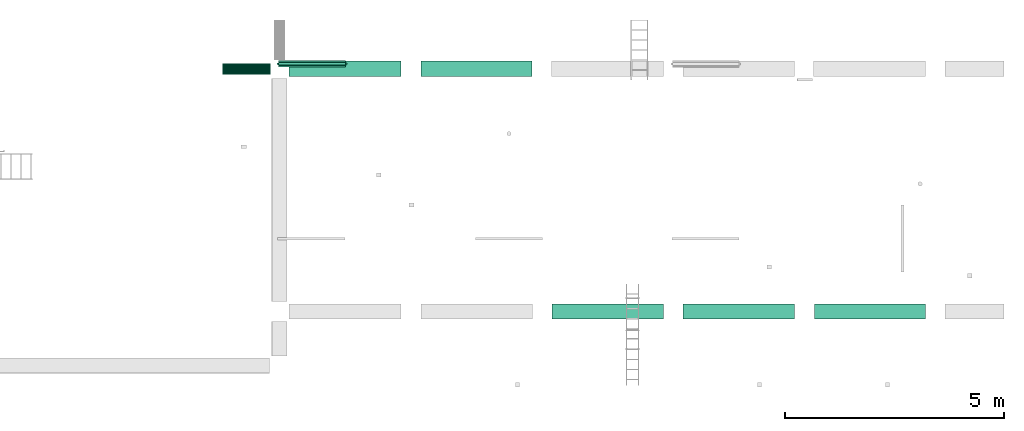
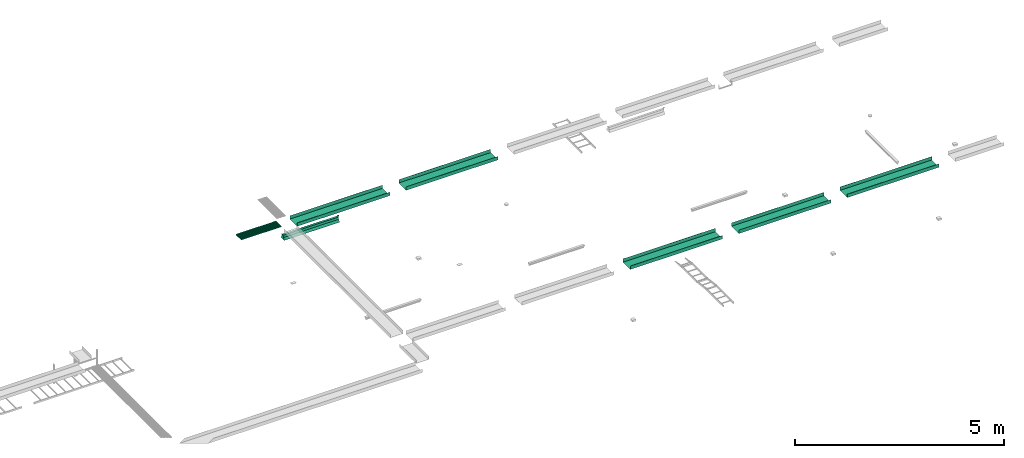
# One storey, part 3 of 14: 15 flow segments, 1 flow terminal.
"""IFC2X3 building model written with IfcOpenShell, lengths in millimetres."""

from ifc_helpers import new_model, entity, si_unit, converted_unit, derived_unit, direction, frame, origin_with_axes, origin_2d_with_axis, place, context, subcontext, project, spatial, hollow_circle, extrude, open_shell, surface_model, source, transform, mapped, type_object, element, save


model = new_model("IFC2X3")

# Units and contexts
model_context = context("Model", 3, precision=0.01, world=frame((0.0, 4.29681676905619e-09, 0.0)), true_north=direction((4.01073788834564e-13, 1.0)))
plan_context = context("Plan", 3, precision=0.01, world=frame((0.0, 4.29681676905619e-09, 0.0)), true_north=direction((4.01073788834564e-13, 1.0)))
body_context = subcontext(model_context, "Body", "Model", "MODEL_VIEW")
ifc_project = project(units=[converted_unit("PLANEANGLEUNIT", "DEGREE", entity("IfcPositiveLengthMeasure", 0.0174532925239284), si_unit("PLANEANGLEUNIT", "RADIAN"), dimensions=[0, 0, 0, 0, 0, 0, 0]), si_unit("AREAUNIT", "SQUARE_METRE"), si_unit("LENGTHUNIT", "METRE", prefix="MILLI"), si_unit("MASSUNIT", "GRAM", prefix="KILO"), si_unit("POWERUNIT", "WATT"), si_unit("PRESSUREUNIT", "PASCAL", prefix="KILO"), si_unit("FORCEUNIT", "NEWTON", prefix="KILO"), si_unit("ELECTRICVOLTAGEUNIT", "VOLT"), si_unit("ELECTRICCURRENTUNIT", "AMPERE"), si_unit("THERMODYNAMICTEMPERATUREUNIT", "DEGREE_CELSIUS"), si_unit("TIMEUNIT", "SECOND"), si_unit("VOLUMEUNIT", "CUBIC_METRE"), derived_unit("LINEARVELOCITYUNIT", [(si_unit("LENGTHUNIT", "METRE"), 1), (si_unit("TIMEUNIT", "SECOND"), -1)]), derived_unit("VOLUMETRICFLOWRATEUNIT", [(si_unit("VOLUMEUNIT", "CUBIC_METRE"), 1), (si_unit("TIMEUNIT", "SECOND"), -1)]), derived_unit("THERMALTRANSMITTANCEUNIT", [(si_unit("POWERUNIT", "WATT"), 1), (si_unit("THERMODYNAMICTEMPERATUREUNIT", "KELVIN"), -1), (si_unit("AREAUNIT", "SQUARE_METRE"), -1)]), derived_unit("SOUNDPRESSUREUNIT", [(si_unit("PRESSUREUNIT", "PASCAL"), 1)])], contexts=[model_context, plan_context])

# Site, building, storey
site_placement = place(None, frame((0.0, -4.29681676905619e-09, 0.0), z_axis=(0.0, 0.0, 1.0), x_axis=(1.0, 0.0, 0.0)))
site = spatial("IfcSite", under=ifc_project, at=site_placement, Name="ENGM", CompositionType="ELEMENT")
building_placement = place(site_placement, frame((0.0, 4.29681676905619e-09, 0.0), z_axis=(0.0, 0.0, 1.0), x_axis=(1.0, 0.0, 0.0)))
building = spatial("IfcBuilding", under=site, at=building_placement, Name="TG", CompositionType="ELEMENT")
storey_placement = place(building_placement, frame((0.0, 0.0, 205200.0), z_axis=(0.0, 0.0, 1.0), x_axis=(1.0, 0.0, 0.0)))
storey = spatial("IfcBuildingStorey", under=building, at=storey_placement, Name="Nivå D + 1,2", CompositionType="ELEMENT", Elevation=205200.0)

# Flow segments
cable_carrier_segment_type_1 = type_object("IfcCableCarrierSegmentType", Name="Conduit", PredefinedType="CONDUITSEGMENT")
shared_shape_1 = source(origin_with_axes(), body_context, "Body", "SweptSolid", [
    extrude(hollow_circle(Radius=12.5, WallThickness=2.0, at=origin_2d_with_axis()), frame((0.0, 0.0, 0.0), z_axis=(1.0, 0.0, 0.0), x_axis=(0.0, 1.0, 0.0)), (0.0, 0.0, 1.0), 1095.0),
])
for number, where, z_axis, x_axis, name in (
    (1, (332294.9875, 466262.5, 4970.0), (0.0, 0.0, 1.0), (-1.0, 0.0, 0.0), "Conduit"),
    (2, (332294.9875, 466287.5, 4970.0), (0.0, 0.0, 1.0), (-1.0, 0.0, 0.0), "Conduit"),
    (3, (332294.9875, 466312.5, 4970.0), (0.0, 0.0, 1.0), (-1.0, 0.0, 0.0), "Conduit"),
    (4, (332294.9875, 466337.5, 4970.0), (0.0, 0.0, 1.0), (-1.0, 0.0, 0.0), "Conduit"),
    (5, (332294.9875, 466362.5, 4970.0), (0.0, 0.0, 1.0), (-1.0, 0.0, 0.0), "Conduit"),
    (6, (332294.9875, 466387.5, 4970.0), (0.0, 0.0, 1.0), (-1.0, 0.0, 0.0), "Conduit"),
    (7, (332294.9875, 466412.5, 4970.0), (0.0, 0.0, 1.0), (-1.0, 0.0, 0.0), "Conduit"),
    (8, (332294.9875, 466437.5, 4970.0), (0.0, 0.0, 1.0), (-1.0, 0.0, 0.0), "Conduit"),
    (9, (332294.9875, 466462.5, 4970.0), (0.0, 0.0, 1.0), (-1.0, 0.0, 0.0), "Conduit"),
    (10, (332294.9875, 466487.5, 4970.0), (0.0, 0.0, 1.0), (-1.0, 0.0, 0.0), "Conduit"),
):
    element("IfcFlowSegment", number, at=place(storey_placement, frame(where, z_axis=z_axis, x_axis=x_axis)), inside=storey, type_object=cable_carrier_segment_type_1, Name=name, context=body_context, shape_type="MappedRepresentation", body=[
        mapped(shared_shape_1, transform((0.0, 0.0, 0.0), scale=1.0)),
    ])
cable_carrier_segment_type_2 = type_object("IfcCableCarrierSegmentType", Name="Kabelbane", PredefinedType="CABLETRAYSEGMENT")
shared_shape_2 = source(origin_with_axes(), body_context, "Body", "SurfaceModel", [
    surface_model("IfcShellBasedSurfaceModel", [(0.0, -175.0, 50.0), (0.0, -172.46, -47.46), (0.0, -175.0, -50.0), (0.0, 175.0, -50.0), (0.0, -172.46, 50.0), (0.0, 175.0, 50.0), (0.0, 172.46, -47.46), (0.0, 172.46, 50.0), (2560.02513, -175.0, -50.0), (2560.02513, -172.46, -47.46), (2560.02513, -175.0, 50.0), (2560.02513, 175.0, -50.0), (2560.02513, -172.46, 50.0), (2560.02513, 172.46, -47.46), (2560.02513, 175.0, 50.0), (2560.02513, 172.46, 50.0)], [open_shell([[[0, 1, 2]], [[3, 2, 1]], [[1, 0, 4]], [[5, 3, 6]], [[1, 6, 3]], [[6, 7, 5]], [[8, 9, 10]], [[9, 8, 11]], [[12, 10, 9]], [[13, 11, 14]], [[11, 13, 9]], [[14, 15, 13]], [[2, 8, 10]], [[10, 0, 2]], [[0, 10, 12]], [[12, 4, 0]], [[4, 12, 9]], [[9, 1, 4]], [[1, 9, 13]], [[13, 6, 1]], [[6, 13, 15]], [[15, 7, 6]], [[7, 15, 14]], [[14, 5, 7]], [[5, 14, 11]], [[11, 3, 5]], [[3, 11, 8]], [[8, 2, 3]]])]),
])
flow_segment_placement = place(storey_placement, frame((335280.0125, 466385.4934, 4900.0), z_axis=(0.0, 0.0, 1.0), x_axis=(-1.0, 0.0, 0.0)))
element("IfcFlowSegment", 11, at=flow_segment_placement, inside=storey, type_object=cable_carrier_segment_type_2, Name="Kabelbane", context=body_context, shape_type="MappedRepresentation", body=[
    mapped(shared_shape_2, transform((0.0, 0.0, 0.0), scale=1.0)),
])
shared_shape_3 = source(origin_with_axes(), body_context, "Body", "SurfaceModel", [
    surface_model("IfcShellBasedSurfaceModel", [(0.0, -175.0, 50.0), (0.0, -172.46, -47.46), (0.0, -175.0, -50.0), (0.0, 175.0, -50.0), (0.0, -172.46, 50.0), (0.0, 175.0, 50.0), (0.0, 172.46, -47.46), (0.0, 172.46, 50.0), (2539.9749, -175.0, -50.0), (2539.9749, -172.46, -47.46), (2539.9749, -175.0, 50.0), (2539.9749, 175.0, -50.0), (2539.9749, -172.46, 50.0), (2539.9749, 172.46, -47.46), (2539.9749, 175.0, 50.0), (2539.9749, 172.46, 50.0)], [open_shell([[[0, 1, 2]], [[3, 2, 1]], [[1, 0, 4]], [[5, 3, 6]], [[1, 6, 3]], [[6, 7, 5]], [[8, 9, 10]], [[9, 8, 11]], [[12, 10, 9]], [[13, 11, 14]], [[11, 13, 9]], [[14, 15, 13]], [[2, 8, 10]], [[10, 0, 2]], [[0, 10, 12]], [[12, 4, 0]], [[4, 12, 9]], [[9, 1, 4]], [[1, 9, 13]], [[13, 6, 1]], [[6, 13, 15]], [[15, 7, 6]], [[7, 15, 14]], [[14, 5, 7]], [[5, 14, 11]], [[11, 3, 5]], [[3, 11, 8]], [[8, 2, 3]]])]),
])
for number, where, z_axis, x_axis in (
    (12, (338269.9875, 466385.4934, 4900.0), (0.0, 0.0, 1.0), (-1.0, 0.0, 0.0)),
    (13, (347269.9875, 460835.9875, 4900.0), (0.0, 0.0, 1.0), (-1.0, 0.0, 0.0)),
):
    element("IfcFlowSegment", number, at=place(storey_placement, frame(where, z_axis=z_axis, x_axis=x_axis)), inside=storey, type_object=cable_carrier_segment_type_2, Name="Kabelbane", context=body_context, shape_type="MappedRepresentation", body=[
        mapped(shared_shape_3, transform((0.0, 0.0, 0.0), scale=1.0)),
    ])
shared_shape_4 = source(origin_with_axes(), body_context, "Body", "SurfaceModel", [
    surface_model("IfcShellBasedSurfaceModel", [(0.0, -175.0, 50.0), (0.0, -172.46, -47.46), (0.0, -175.0, -50.0), (0.0, 175.0, -50.0), (0.0, -172.46, 50.0), (0.0, 175.0, 50.0), (0.0, 172.46, -47.46), (0.0, 172.46, 50.0), (2549.99987, -175.0, -50.0), (2549.99987, -172.46, -47.46), (2549.99987, -175.0, 50.0), (2549.99987, 175.0, -50.0), (2549.99987, -172.46, 50.0), (2549.99987, 172.46, -47.46), (2549.99987, 175.0, 50.0), (2549.99987, 172.46, 50.0)], [open_shell([[[0, 1, 2]], [[3, 2, 1]], [[1, 0, 4]], [[5, 3, 6]], [[1, 6, 3]], [[6, 7, 5]], [[8, 9, 10]], [[9, 8, 11]], [[12, 10, 9]], [[13, 11, 14]], [[11, 13, 9]], [[14, 15, 13]], [[2, 8, 10]], [[10, 0, 2]], [[0, 10, 12]], [[12, 4, 0]], [[4, 12, 9]], [[9, 1, 4]], [[1, 9, 13]], [[13, 6, 1]], [[6, 13, 15]], [[15, 7, 6]], [[7, 15, 14]], [[14, 5, 7]], [[5, 14, 11]], [[11, 3, 5]], [[3, 11, 8]], [[8, 2, 3]]])]),
])
for number, where, z_axis, x_axis in (
    (14, (341280.0125, 460835.9875, 4900.0), (0.0, 0.0, 1.0), (-1.0, 0.0, 0.0)),
    (15, (344280.0125, 460835.9875, 4900.0), (0.0, 0.0, 1.0), (-1.0, 0.0, 0.0)),
):
    element("IfcFlowSegment", number, at=place(storey_placement, frame(where, z_axis=z_axis, x_axis=x_axis)), inside=storey, type_object=cable_carrier_segment_type_2, Name="Kabelbane", context=body_context, shape_type="MappedRepresentation", body=[
        mapped(shared_shape_4, transform((0.0, 0.0, 0.0), scale=1.0)),
    ])

# Flow terminal
light_fixture_type = type_object("IfcLightFixtureType", Name="IB1152", PredefinedType="NOTDEFINED")
shared_shape_5 = source(origin_with_axes(), body_context, "Body", "SurfaceModel", [
    surface_model("IfcShellBasedSurfaceModel", [(0.0, 29.80135, -25.0164), (0.0, 29.99865, -24.9836), (0.1, 39.99864, -85.1336), (0.1, 39.80135, -85.1664), (0.0, -29.99865, -24.9836), (0.0, -29.80135, -25.0164), (0.1, -39.80135, -85.1664), (0.1, -39.99864, -85.1336), (-2e-05, 30.0, -27.0), (-2e-05, 30.0, -27.2), (-2e-05, -30.0, -27.2), (-2e-05, -30.0, -27.0), (-0.1, 39.80135, -85.1664), (-0.1, 39.99864, -85.1336), (-0.1, -39.99864, -85.1336), (-0.1, -39.80135, -85.1664), (2e-05, 30.0, -27.2), (2e-05, 30.0, -27.0), (2e-05, -30.0, -27.0), (2e-05, -30.0, -27.2), (765.00003, 25.0, -0.1), (795.00002, 17.0, -0.1), (795.00002, -17.0, -0.1), (765.00003, -25.0, -0.1), (795.00002, -17.0, 0.1), (795.00002, 17.0, 0.1), (765.00003, 25.0, 0.1), (765.00003, -25.0, 0.1), (765.10003, 30.0, -25.0), (765.10003, 25.0, 0.0), (765.10003, -25.0, 0.0), (765.10003, -30.0, -25.0), (764.89997, -25.0, 0.0), (764.89997, 25.0, 0.0), (764.89997, 30.0, -25.0), (764.89997, -30.0, -25.0), (765.10003, 39.80135, -85.1664), (765.00003, 29.80135, -25.0164), (765.00003, 29.99865, -24.9836), (765.10003, 39.99864, -85.1336), (765.10003, -39.99864, -85.1336), (765.00003, -29.99865, -24.9836), (765.00003, -29.80135, -25.0164), (765.10003, -39.80135, -85.1664), (764.89997, -30.0, -27.0), (764.89997, 30.0, -27.0), (764.89997, -30.0, -27.2), (764.89997, 30.0, -27.2), (765.20002, 40.0, -86.14984), (765.10003, 30.0, -24.99984), (765.10003, -30.0, -24.99984), (765.20002, -40.0, -86.14984), (764.89997, -30.0, -25.00016), (764.89997, 30.0, -25.00016), (765.00003, 40.0, -86.15016), (765.00003, -40.0, -86.15016), (-765.00003, 25.0, 0.1), (-795.00002, 17.0, 0.1), (-795.00002, -17.0, 0.1), (-765.00003, -25.0, 0.1), (-795.00002, -17.0, -0.1), (-795.00002, 17.0, -0.1), (-765.00003, 25.0, -0.1), (-765.00003, -25.0, -0.1), (-764.89997, 30.0, -25.0), (-764.89997, 25.0, 0.0), (-764.89997, -25.0, 0.0), (-764.89997, -30.0, -25.0), (-765.10003, -25.0, 0.0), (-765.10003, 25.0, 0.0), (-765.10003, 30.0, -25.0), (-765.10003, -30.0, -25.0), (-765.10003, 39.99864, -85.1336), (-765.00003, 29.99865, -24.9836), (-765.00003, 29.80135, -25.0164), (-765.10003, 39.80135, -85.1664), (-765.10003, -39.80135, -85.1664), (-765.00003, -29.80135, -25.0164), (-765.00003, -29.99865, -24.9836), (-765.10003, -39.99864, -85.1336), (-764.89997, -30.0, -27.2), (-764.89997, 30.0, -27.2), (-764.89997, -30.0, -27.0), (-764.89997, 30.0, -27.0), (-765.00003, 40.0, -86.15016), (-764.89997, 30.0, -25.00016), (-764.89997, -30.0, -25.00016), (-765.00003, -40.0, -86.15016), (-765.10003, -30.0, -24.99984), (-765.10003, 30.0, -24.99984), (-765.20002, 40.0, -86.14984), (-765.20002, -40.0, -86.14984), (765.00003, -75.5, -150.0), (765.00003, -74.7, -150.0), (765.00003, -72.9274, -130.45916), (765.00003, -72.15466, -130.66622), (765.00003, -64.6921, -112.65), (765.00003, -65.38492, -112.25), (765.00003, -53.38656, -96.61343), (765.00003, -52.82088, -97.17912), (765.00003, -37.75, -84.61508), (765.00003, -37.35, -85.3079), (765.00003, -19.33378, -77.84534), (765.00003, -19.54084, -77.0726), (765.00003, 0.0, -74.5), (765.00003, 0.0, -75.3), (765.00003, 64.6921, -112.65), (765.00003, 72.15466, -130.66622), (765.00003, 65.38492, -112.25), (765.00003, 72.9274, -130.45916), (765.00003, 53.38656, -96.61343), (765.00003, 74.7, -150.0), (765.00003, 75.5, -150.0), (765.00003, 19.33378, -77.84534), (765.00003, 19.54084, -77.0726), (765.00003, 37.35, -85.3079), (765.00003, 52.82088, -97.17912), (765.00003, 37.75, -84.61508), (-765.00003, 75.5, -150.0), (-765.00003, 74.7, -150.0), (-765.00003, 72.9274, -130.45916), (-765.00003, 72.15466, -130.66622), (-765.00003, 64.6921, -112.65), (-765.00003, 65.38492, -112.25), (-765.00003, 53.38656, -96.61343), (-765.00003, 52.82088, -97.17912), (-765.00003, 37.75, -84.61508), (-765.00003, 37.35, -85.3079), (-765.00003, 19.33378, -77.84534), (-765.00003, 19.54084, -77.0726), (-765.00003, 0.0, -74.5), (-765.00003, 0.0, -75.3), (-765.00003, -64.6921, -112.65), (-765.00003, -72.15466, -130.66622), (-765.00003, -65.38492, -112.25), (-765.00003, -72.9274, -130.45916), (-765.00003, -53.38656, -96.61343), (-765.00003, -74.7, -150.0), (-765.00003, -75.5, -150.0), (-765.00003, -19.33378, -77.84534), (-765.00003, -19.54084, -77.0726), (-765.00003, -37.35, -85.3079), (-765.00003, -52.82088, -97.17912), (-765.00003, -37.75, -84.61508), (765.10003, -75.5, -150.0), (765.10003, 0.0, -150.0), (765.10003, -72.9274, -130.45916), (765.10003, -65.38492, -112.25), (765.10003, -53.38656, -96.61343), (765.10003, -37.75, -84.61508), (765.10003, -19.54084, -77.0726), (765.10003, 0.0, -74.5), (765.10003, 72.9274, -130.45916), (765.10003, 65.38492, -112.25), (765.10003, 53.38656, -96.61343), (765.10003, 19.54084, -77.0726), (765.10003, 37.75, -84.61508), (765.10003, 75.5, -150.0), (764.89997, 75.5, -150.0), (764.89997, 0.0, -150.0), (764.89997, 72.9274, -130.45916), (764.89997, 65.38492, -112.25), (764.89997, 53.38656, -96.61343), (764.89997, 37.75, -84.61508), (764.89997, 19.54084, -77.0726), (764.89997, 0.0, -74.5), (764.89997, -72.9274, -130.45916), (764.89997, -65.38492, -112.25), (764.89997, -53.38656, -96.61343), (764.89997, -19.54084, -77.0726), (764.89997, -37.75, -84.61508), (764.89997, -75.5, -150.0), (-764.89997, -75.5, -150.0), (-764.89997, 0.0, -150.0), (-764.89997, -72.9274, -130.45916), (-764.89997, -65.38492, -112.25), (-764.89997, -53.38656, -96.61343), (-764.89997, -37.75, -84.61508), (-764.89997, -19.54084, -77.0726), (-764.89997, 0.0, -74.5), (-764.89997, 72.9274, -130.45916), (-764.89997, 65.38492, -112.25), (-764.89997, 53.38656, -96.61343), (-764.89997, 19.54084, -77.0726), (-764.89997, 37.75, -84.61508), (-764.89997, 75.5, -150.0), (-765.10003, 75.5, -150.0), (-765.10003, 0.0, -150.0), (-765.10003, 72.9274, -130.45916), (-765.10003, 65.38492, -112.25), (-765.10003, 53.38656, -96.61343), (-765.10003, 37.75, -84.61508), (-765.10003, 19.54084, -77.0726), (-765.10003, 0.0, -74.5), (-765.10003, -72.9274, -130.45916), (-765.10003, -65.38492, -112.25), (-765.10003, -53.38656, -96.61343), (-765.10003, -19.54084, -77.0726), (-765.10003, -37.75, -84.61508), (-765.10003, -75.5, -150.0)], [open_shell([[[0, 1, 2]], [[2, 3, 0]], [[4, 5, 6]], [[6, 7, 4]], [[8, 9, 10]], [[10, 11, 8]], [[1, 0, 12]], [[12, 13, 1]], [[5, 4, 14]], [[14, 15, 5]], [[16, 17, 18]], [[18, 19, 16]], [[20, 21, 22]], [[22, 23, 20]], [[24, 25, 26]], [[26, 27, 24]], [[23, 27, 26]], [[26, 20, 23]], [[20, 26, 25]], [[25, 21, 20]], [[21, 25, 24]], [[24, 22, 21]], [[22, 24, 27]], [[27, 23, 22]], [[28, 29, 30]], [[30, 31, 28]], [[32, 33, 34]], [[34, 35, 32]], [[31, 35, 34]], [[34, 28, 31]], [[28, 34, 33]], [[33, 29, 28]], [[29, 33, 32]], [[32, 30, 29]], [[30, 32, 35]], [[35, 31, 30]], [[36, 37, 0]], [[0, 3, 36]], [[1, 38, 39]], [[39, 2, 1]], [[3, 2, 39]], [[39, 36, 3]], [[36, 39, 38]], [[38, 37, 36]], [[37, 38, 1]], [[1, 0, 37]], [[40, 41, 4]], [[4, 7, 40]], [[5, 42, 43]], [[43, 6, 5]], [[7, 6, 43]], [[43, 40, 7]], [[40, 43, 42]], [[42, 41, 40]], [[41, 42, 5]], [[5, 4, 41]], [[8, 11, 44]], [[44, 45, 8]], [[46, 10, 9]], [[9, 47, 46]], [[45, 47, 9]], [[9, 8, 45]], [[11, 10, 46]], [[46, 44, 11]], [[44, 46, 47]], [[47, 45, 44]], [[48, 49, 50]], [[50, 51, 48]], [[52, 53, 54]], [[54, 55, 52]], [[51, 55, 54]], [[54, 48, 51]], [[48, 54, 53]], [[53, 49, 48]], [[49, 53, 52]], [[52, 50, 49]], [[50, 52, 55]], [[55, 51, 50]], [[56, 57, 58]], [[58, 59, 56]], [[60, 61, 62]], [[62, 63, 60]], [[59, 63, 62]], [[62, 56, 59]], [[56, 62, 61]], [[61, 57, 56]], [[57, 61, 60]], [[60, 58, 57]], [[58, 60, 63]], [[63, 59, 58]], [[64, 65, 66]], [[66, 67, 64]], [[68, 69, 70]], [[70, 71, 68]], [[67, 71, 70]], [[70, 64, 67]], [[64, 70, 69]], [[69, 65, 64]], [[65, 69, 68]], [[68, 66, 65]], [[66, 68, 71]], [[71, 67, 66]], [[72, 73, 1]], [[1, 13, 72]], [[0, 74, 75]], [[75, 12, 0]], [[13, 12, 75]], [[75, 72, 13]], [[72, 75, 74]], [[74, 73, 72]], [[73, 74, 0]], [[0, 1, 73]], [[76, 77, 5]], [[5, 15, 76]], [[4, 78, 79]], [[79, 14, 4]], [[15, 14, 79]], [[79, 76, 15]], [[76, 79, 78]], [[78, 77, 76]], [[77, 78, 4]], [[4, 5, 77]], [[16, 19, 80]], [[80, 81, 16]], [[82, 18, 17]], [[17, 83, 82]], [[81, 83, 17]], [[17, 16, 81]], [[19, 18, 82]], [[82, 80, 19]], [[80, 82, 83]], [[83, 81, 80]], [[84, 85, 86]], [[86, 87, 84]], [[88, 89, 90]], [[90, 91, 88]], [[87, 91, 90]], [[90, 84, 87]], [[84, 90, 89]], [[89, 85, 84]], [[85, 89, 88]], [[88, 86, 85]], [[86, 88, 91]], [[91, 87, 86]], [[92, 93, 94]], [[94, 93, 95]], [[95, 96, 97]], [[97, 96, 98]], [[95, 97, 94]], [[98, 99, 100]], [[99, 98, 96]], [[100, 99, 101]], [[101, 102, 103]], [[104, 102, 105]], [[102, 104, 103]], [[101, 103, 100]], [[106, 107, 108]], [[108, 107, 109]], [[106, 108, 110]], [[109, 111, 112]], [[111, 109, 107]], [[104, 113, 114]], [[105, 113, 104]], [[114, 113, 115]], [[116, 110, 117]], [[110, 116, 106]], [[115, 117, 114]], [[117, 115, 116]], [[118, 119, 120]], [[120, 119, 121]], [[121, 122, 123]], [[123, 122, 124]], [[121, 123, 120]], [[124, 125, 126]], [[125, 124, 122]], [[126, 125, 127]], [[127, 128, 129]], [[130, 128, 131]], [[128, 130, 129]], [[127, 129, 126]], [[132, 133, 134]], [[134, 133, 135]], [[132, 134, 136]], [[135, 137, 138]], [[137, 135, 133]], [[130, 139, 140]], [[131, 139, 130]], [[140, 139, 141]], [[142, 136, 143]], [[136, 142, 132]], [[141, 143, 140]], [[143, 141, 142]], [[92, 138, 137]], [[137, 93, 92]], [[96, 95, 132]], [[95, 93, 137]], [[101, 99, 141]], [[142, 99, 96]], [[101, 139, 102]], [[137, 133, 95]], [[133, 132, 95]], [[132, 142, 96]], [[142, 141, 99]], [[101, 141, 139]], [[139, 131, 102]], [[131, 105, 102]], [[115, 113, 127]], [[115, 125, 116]], [[107, 106, 121]], [[122, 106, 116]], [[111, 107, 119]], [[105, 128, 113]], [[128, 127, 113]], [[131, 128, 105]], [[127, 125, 115]], [[125, 122, 116]], [[106, 122, 121]], [[121, 119, 107]], [[111, 119, 118]], [[118, 112, 111]], [[109, 120, 123]], [[124, 108, 123]], [[117, 126, 129]], [[124, 126, 110]], [[114, 129, 130]], [[112, 118, 109]], [[118, 120, 109]], [[123, 108, 109]], [[124, 110, 108]], [[117, 110, 126]], [[129, 114, 117]], [[130, 104, 114]], [[103, 140, 143]], [[136, 100, 143]], [[97, 134, 135]], [[136, 134, 98]], [[94, 135, 138]], [[140, 103, 104]], [[143, 100, 103]], [[136, 98, 100]], [[134, 97, 98]], [[94, 97, 135]], [[138, 92, 94]], [[140, 104, 130]], [[144, 145, 146]], [[146, 145, 147]], [[147, 145, 148]], [[148, 145, 149]], [[145, 150, 149]], [[145, 151, 150]], [[145, 152, 153]], [[154, 145, 153]], [[145, 155, 151]], [[155, 145, 156]], [[156, 145, 154]], [[145, 157, 152]], [[158, 159, 160]], [[160, 159, 161]], [[161, 159, 162]], [[162, 159, 163]], [[159, 164, 163]], [[159, 165, 164]], [[159, 166, 167]], [[168, 159, 167]], [[159, 169, 165]], [[169, 159, 170]], [[170, 159, 168]], [[159, 171, 166]], [[144, 171, 159]], [[159, 145, 144]], [[145, 159, 158]], [[158, 157, 145]], [[160, 152, 158]], [[161, 153, 160]], [[156, 162, 163]], [[161, 162, 154]], [[155, 163, 164]], [[160, 153, 152]], [[152, 157, 158]], [[155, 156, 163]], [[154, 162, 156]], [[154, 153, 161]], [[151, 155, 164]], [[164, 165, 151]], [[169, 150, 165]], [[170, 149, 169]], [[147, 168, 167]], [[170, 168, 148]], [[146, 167, 166]], [[170, 148, 149]], [[149, 150, 169]], [[144, 146, 166]], [[147, 167, 146]], [[147, 148, 168]], [[171, 144, 166]], [[165, 150, 151]], [[172, 173, 174]], [[174, 173, 175]], [[175, 173, 176]], [[176, 173, 177]], [[173, 178, 177]], [[173, 179, 178]], [[173, 180, 181]], [[182, 173, 181]], [[173, 183, 179]], [[183, 173, 184]], [[184, 173, 182]], [[173, 185, 180]], [[186, 187, 188]], [[188, 187, 189]], [[189, 187, 190]], [[190, 187, 191]], [[187, 192, 191]], [[187, 193, 192]], [[187, 194, 195]], [[196, 187, 195]], [[187, 197, 193]], [[197, 187, 198]], [[198, 187, 196]], [[187, 199, 194]], [[172, 199, 187]], [[187, 173, 172]], [[173, 187, 186]], [[186, 185, 173]], [[188, 180, 186]], [[189, 181, 188]], [[184, 190, 191]], [[189, 190, 182]], [[183, 191, 192]], [[188, 181, 180]], [[180, 185, 186]], [[183, 184, 191]], [[182, 190, 184]], [[182, 181, 189]], [[179, 183, 192]], [[192, 193, 179]], [[197, 178, 193]], [[198, 177, 197]], [[175, 196, 195]], [[198, 196, 176]], [[174, 195, 194]], [[198, 176, 177]], [[177, 178, 197]], [[172, 174, 194]], [[175, 195, 174]], [[175, 176, 196]], [[199, 172, 194]], [[193, 178, 179]]])]),
])
flow_terminal_placement = place(storey_placement, frame((333242.85768, 466495.93702, 4542.10000000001), z_axis=(0.0, 0.0, 1.0), x_axis=(-1.0, 0.0, 0.0)))
element("IfcFlowTerminal", 16, at=flow_terminal_placement, inside=storey, type_object=light_fixture_type, Name="IB1152", context=body_context, shape_type="MappedRepresentation", body=[
    mapped(shared_shape_5, transform((0.0, 0.0, 0.0), scale=1.0)),
])

save(model, "model.ifc")
